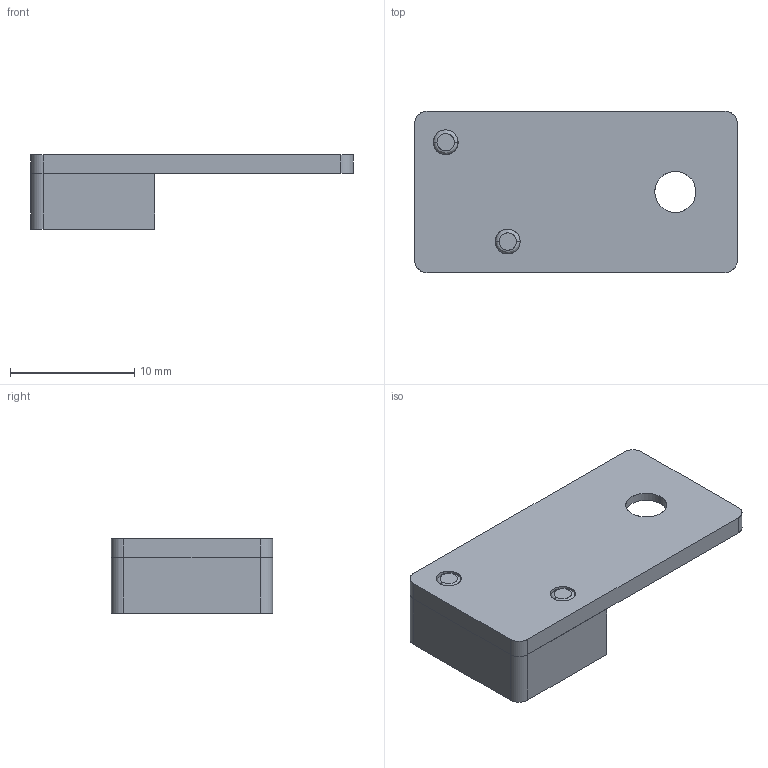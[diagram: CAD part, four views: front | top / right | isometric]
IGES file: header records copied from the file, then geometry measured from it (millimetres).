
Start section: SolidWorks IGES file using analytic representation for surfaces
Global section: file name: \\ss-share1\SHARE\030eins事業部\技術課\☆eins parts 量産図\3D\掴む\当板\CPUM-10  CPUM-11_20231110\web用データ\023357.IGS; native system: SolidWorks 2021; preprocessor: SolidWorks 2021; author: STAR050C; date: 231130.162946; units: millimetre
Bounding box: 26 x 13 x 6 mm (x, y, z)
Surface area: 1361.8 mm2 (no closed solid volume)
Topology: 0 solids, 0 shells, 118 faces, 976 edges, 976 vertices
Faces by surface type: bspline 98, revolution 20
